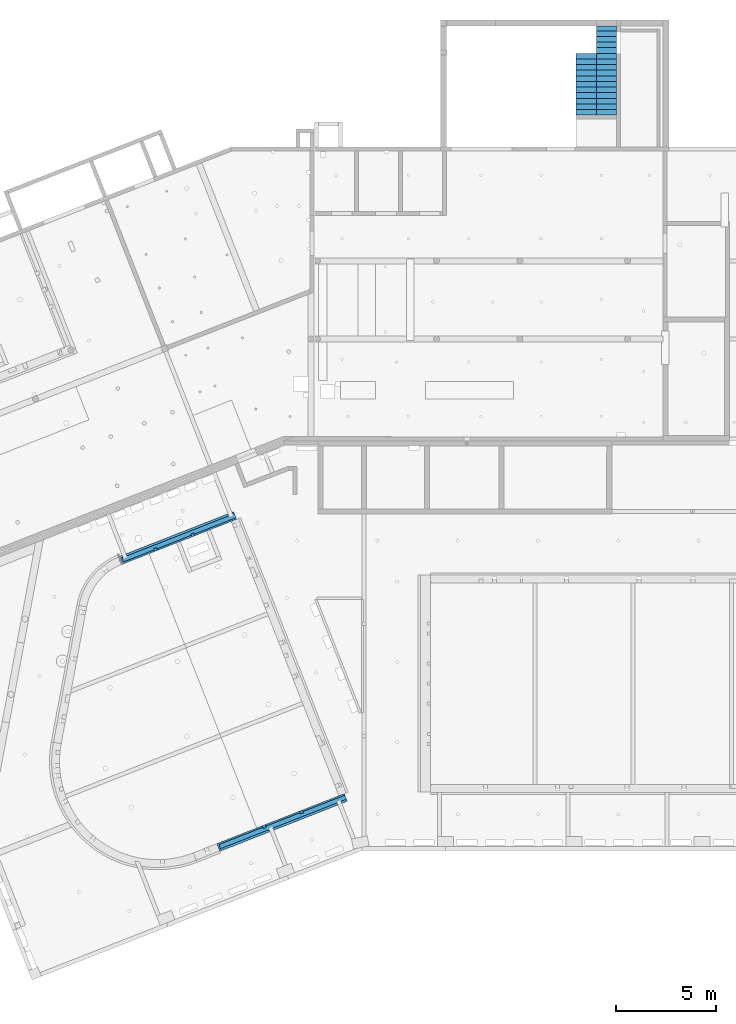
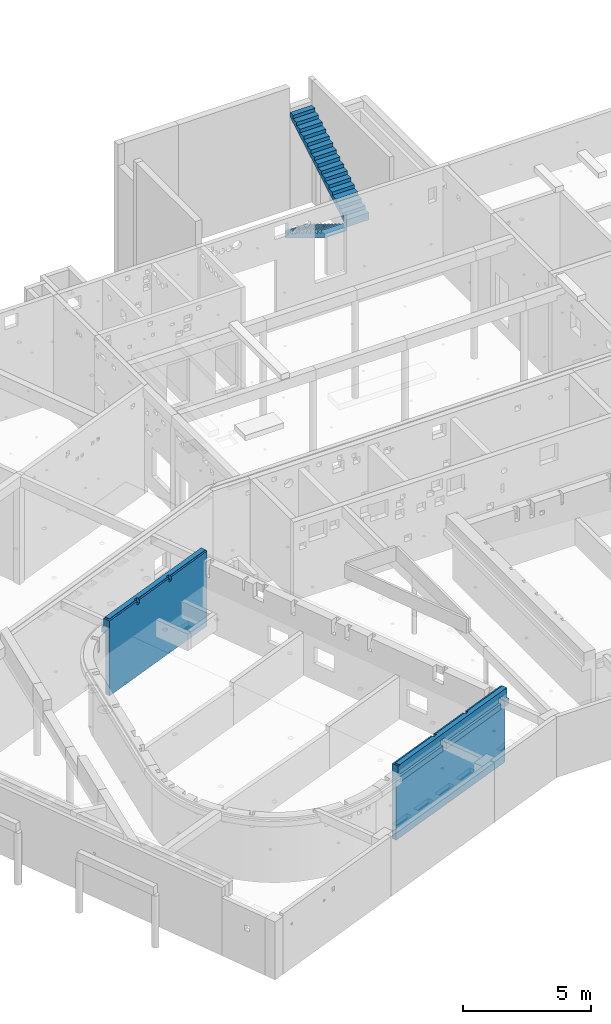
# One storey, part 28 of 28: 2 stairs, 2 walls, 11 openings.
"""IFC2X3 building model written with IfcOpenShell, lengths in metres."""

from ifc_helpers import new_model, entity, si_unit, converted_unit, direction, frame, origin, origin_with_axes, place, context, subcontext, project, spatial, polyline, outline, extrude, faceted_brep, material, element, save


model = new_model("IFC2X3")

# Units and contexts
model_context = context("Model", 3, precision=1e-05, world=origin(), true_north=direction((-0.407059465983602, -0.913401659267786)))
body_context = subcontext(model_context, "Body", "Model", "MODEL_VIEW")
ifc_project = project(units=[si_unit("LENGTHUNIT", "METRE"), si_unit("AREAUNIT", "SQUARE_METRE"), si_unit("VOLUMEUNIT", "CUBIC_METRE"), si_unit("MASSUNIT", "GRAM", prefix="KILO"), converted_unit("PLANEANGLEUNIT", "DEGREE", entity("IfcPlaneAngleMeasure", 0.0174532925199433), si_unit("PLANEANGLEUNIT", "RADIAN"), dimensions=[0, 0, 0, 0, 0, 0, 0])], contexts=[model_context])

# Site, buildings, storey
site_placement = place(None, origin())
site = spatial("IfcSite", under=ifc_project, at=site_placement, Name="Site", CompositionType="ELEMENT")
building_1_placement = place(site_placement, origin())
building_1 = spatial("IfcBuilding", under=site, at=building_1_placement, Name="Site", CompositionType="COMPLEX")
building_2_placement = place(building_1_placement, origin())
building_2 = spatial("IfcBuilding", under=building_1, at=building_2_placement, Name="Bâtiments", CompositionType="ELEMENT")
storey_placement = place(building_2_placement, frame((0.0, 0.0, -5.3)))
storey = spatial("IfcBuildingStorey", under=building_2, at=storey_placement, Name="SOUS-SOL", CompositionType="ELEMENT", Elevation=-5.3)

# Wall, openings
ifc_material_1 = material(Name="Béton")
wall_1_placement = place(storey_placement, frame((23.0210984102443, -25.6787157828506, 1.81)))
wall_1 = element("IfcWall", 1, at=wall_1_placement, inside=storey, material=ifc_material_1, context=body_context, shape_type="Brep", body=[
    faceted_brep([(2.7620972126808, 1.23978941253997, 3.35), (2.7620972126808, 1.23978941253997, 2.95), (2.5759156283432, 1.16673983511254, 2.95), (2.5759156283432, 1.16673983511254, 3.35), (6.15225922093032, 2.56994714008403, 3.35), (6.15225922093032, 2.56994714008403, 2.95), (5.96607763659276, 2.49689756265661, 2.95), (5.96607763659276, 2.49689756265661, 3.35), (6.2253091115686, 2.38376475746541, 2.95), (6.03912752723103, 2.31071518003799, 2.95), (2.83514532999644, 1.05361154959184, 2.95), (2.64896374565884, 0.980561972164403, 2.95), (5.99895017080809, 2.41311527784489, 3.35), (6.18513175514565, 2.48616485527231, 3.35), (6.03912752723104, 2.31071518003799, 3.14), (5.99895017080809, 2.41311527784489, 3.14), (2.83514532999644, 1.05361154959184, 3.14), (2.79496797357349, 1.15601164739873, 3.14), (2.79496797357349, 1.15601164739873, 3.35), (2.60878638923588, 1.0829620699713, 3.35), (2.64896374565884, 0.980561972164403, 3.14), (2.60878638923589, 1.0829620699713, 3.14), (6.18513175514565, 2.48616485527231, 3.14), (6.2253091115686, 2.38376475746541, 3.14), (0.149803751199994, 0.0, 3.14), (0.109626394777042, 0.102400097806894, 3.14), (6.41724912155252, 2.68465941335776, 2.88), (0.073084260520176, 0.195535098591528, 2.88), (0.0730497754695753, 0.195521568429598, 2.88), (0.073101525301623, 0.19549109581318, 2.88), (0.149803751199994, 0.0, 2.88), (6.49395134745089, 2.48916831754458, 2.88), (6.49395134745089, 2.48916831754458, 3.14), (6.45377399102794, 2.59156841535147, 3.14), (0.109626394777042, 0.102400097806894, 3.6), (6.45377399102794, 2.59156841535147, 3.6), (0.073101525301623, 0.19549109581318, 3.6), (0.0730497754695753, 0.195521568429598, 3.6), (0.073084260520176, 0.195535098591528, 3.6), (0.073084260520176, 0.195535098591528, 0.0), (5.178635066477e-05, 0.381673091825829, 0.0), (5.178635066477e-05, 0.381673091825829, 3.6), (6.41724912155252, 2.68465941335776, 0.0), (6.34419938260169, 2.87084140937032, 0.0), (6.34419938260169, 2.87084140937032, 3.6), (0.0, 0.381703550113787, 0.0), (0.0, 0.381703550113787, 3.6)], [[[0, 1, 2, 3]], [[4, 5, 6, 7]], [[5, 8, 9, 6]], [[1, 10, 11, 2]], [[7, 12, 13, 4]], [[7, 6, 9, 14, 15, 12]], [[14, 16, 17, 15]], [[18, 17, 16, 10, 1, 0]], [[3, 19, 18, 0]], [[3, 2, 11, 20, 21, 19]], [[13, 22, 23, 8, 5, 4]], [[20, 24, 25, 21]], [[26, 27, 28, 29, 30, 31]], [[9, 8, 23, 32, 31, 30, 24, 20, 11, 10, 16, 14]], [[22, 33, 32, 23]], [[13, 12, 15, 17, 18, 19, 21, 25, 34, 35, 33, 22]], [[25, 24, 30, 29, 36, 34]], [[29, 28, 37, 36]], [[37, 28, 27, 38]], [[27, 39, 40, 41, 38]], [[42, 39, 27, 26]], [[43, 42, 26, 31, 32, 33, 35, 44]], [[45, 43, 44, 46]], [[40, 45, 46, 41]], [[39, 42, 43, 45, 40]], [[46, 44, 35, 34, 36, 37, 38, 41]]], orient=[[False], [False], [False], [False], [False], [False], [False], [False], [False], [False], [False], [False], [False], [False], [False], [False], [False], [False], [False], [False], [False], [False], [False], [False], [False], [False]]),
])
opening_1_placement = place(wall_1_placement, frame((6.06066452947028, 2.81330551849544, 2.05), z_axis=(0.930909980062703, 0.365248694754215, 0.0), x_axis=(0.0, 0.0, 1.0)))
element("IfcOpeningElement", 2, at=opening_1_placement, cuts=wall_1, Name="Percement dans mur", ObjectType="Opening", context=body_context, shape_type="SweptSolid", body=[
    extrude(outline(polyline([(0.0, 0.0500000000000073), (1.19, 0.0500000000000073), (1.19, 0.0), (0.0, 0.0), (0.0, 0.0500000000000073)])), origin_with_axes(), (0.0, 0.0, 1.0), 0.0499999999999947),
])
opening_2_placement = place(wall_1_placement, frame((6.45377399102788, 2.59156841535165, 3.58), z_axis=(0.0, 0.0, 1.0), x_axis=(-0.365248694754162, 0.930909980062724, 0.0)))
element("IfcOpeningElement", 3, at=opening_2_placement, cuts=wall_1, Name="Percement dans mur", ObjectType="Opening", context=body_context, shape_type="SweptSolid", body=[
    extrude(outline(polyline([(0.219999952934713, 6.73503305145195), (0.219999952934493, -5.6843418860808e-16), (0.299999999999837, -7.38964445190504e-16), (0.300000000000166, 6.81499579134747), (0.100047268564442, 6.81499579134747), (0.100047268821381, 6.81503283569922), (0.10000000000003, 6.81499579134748), (1.68256519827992e-14, 6.81499579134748), (1.50066625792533e-14, 6.73503305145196), (0.219999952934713, 6.73503305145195)])), origin_with_axes(), (0.0, 0.0, 1.0), 0.02),
])
opening_3_placement = place(wall_1_placement, frame((4.26363681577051, 2.05453407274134, 3.39), z_axis=(0.365241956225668, -0.930912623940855, 0.0), x_axis=(0.0, 0.0, 1.0)))
element("IfcOpeningElement", 4, at=opening_3_placement, cuts=wall_1, Name="Percement dans mur", ObjectType="Opening", context=body_context, shape_type="SweptSolid", body=[
    extrude(outline(polyline([(0.0, 0.149999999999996), (0.21, 0.149999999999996), (0.21, 0.0), (0.0, 0.0), (0.0, 0.149999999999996)])), origin_with_axes(), (0.0, 0.0, 1.0), 0.150000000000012),
])
opening_4_placement = place(wall_1_placement, frame((2.40183694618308, 1.32406011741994, 3.39), z_axis=(0.365241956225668, -0.930912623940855, 0.0), x_axis=(0.0, 0.0, 1.0)))
element("IfcOpeningElement", 5, at=opening_4_placement, cuts=wall_1, Name="Percement dans mur", ObjectType="Opening", context=body_context, shape_type="SweptSolid", body=[
    extrude(outline(polyline([(0.0, 0.149999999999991), (0.21, 0.149999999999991), (0.21, 0.0), (0.0, 0.0), (0.0, 0.149999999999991)])), origin_with_axes(), (0.0, 0.0, 1.0), 0.150000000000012),
])
opening_5_placement = place(wall_1_placement, frame((6.15791523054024, 2.5829108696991, 2.88), z_axis=(0.365248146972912, -0.930910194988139, 0.0), x_axis=(0.0, 0.0, 1.0)))
element("IfcOpeningElement", 6, at=opening_5_placement, cuts=wall_1, Name="Percement dans mur", ObjectType="Opening", context=body_context, shape_type="SweptSolid", body=[
    extrude(outline(polyline([(0.0, 0.22), (0.47, 0.22), (0.47, 0.0), (0.0, 0.0), (0.0, 0.22)])), origin_with_axes(), (0.0, 0.0, 1.0), 0.110000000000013),
    extrude(outline(polyline([(0.0, 0.22), (0.47, 0.22), (0.47, 0.0), (0.0, 0.0), (0.0, 0.22)])), frame((0.0, -1.09423581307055e-15, 0.110000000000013), z_axis=(0.0, 0.0, 1.0), x_axis=(1.0, 0.0, 0.0)), (0.0, 0.0, 1.0), 0.100000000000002),
])
opening_6_placement = place(wall_1_placement, frame((2.76775066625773, 1.25275965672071, 2.88), z_axis=(0.365248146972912, -0.930910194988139, 0.0), x_axis=(0.0, 0.0, 1.0)))
element("IfcOpeningElement", 7, at=opening_6_placement, cuts=wall_1, Name="Percement dans mur", ObjectType="Opening", context=body_context, shape_type="SweptSolid", body=[
    extrude(outline(polyline([(0.0, 0.22), (0.47, 0.22), (0.47, 0.0), (0.0, 0.0), (0.0, 0.22)])), origin_with_axes(), (0.0, 0.0, 1.0), 0.110000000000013),
    extrude(outline(polyline([(0.0, 0.22), (0.47, 0.22), (0.47, 0.0), (0.0, 0.0), (0.0, 0.22)])), frame((0.0, -1.09423581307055e-15, 0.110000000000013), z_axis=(0.0, 0.0, 1.0), x_axis=(1.0, 0.0, 0.0)), (0.0, 0.0, 1.0), 0.100000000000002),
])

ifc_material_2 = material(Name="Béton")
wall_2_placement = place(storey_placement, frame((18.1620557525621, -11.3649304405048, 1.81)))
wall_2 = element("IfcWall", 8, at=wall_2_placement, inside=storey, material=ifc_material_2, context=body_context, shape_type="Brep", body=[
    faceted_brep([(0.149751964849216, 0.0, 3.6), (0.0401773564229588, 0.279272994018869, 3.6), (5.72834194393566, 2.51105817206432, 3.6), (5.83791655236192, 2.23178517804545, 3.6), (5.83791655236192, 2.23178517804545, 0.0), (0.149751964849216, 0.0, 0.0), (0.076702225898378, 0.186181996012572, 0.0), (5.76486681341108, 2.41796717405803, 0.0), (5.72834194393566, 2.51105817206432, 3.14), (5.68816458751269, 2.61345826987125, 3.14), (5.68816458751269, 2.61345826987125, 2.88), (5.76486681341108, 2.41796717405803, 2.88), (0.076702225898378, 0.186181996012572, 2.88), (0.0, 0.38167309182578, 2.88), (0.0, 0.38167309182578, 3.14), (0.0401773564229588, 0.279272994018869, 3.14), (5.48938482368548, 2.32063745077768, 3.35), (5.48938482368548, 2.32063745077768, 2.95), (5.67556640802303, 2.3936870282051, 2.95), (5.67556640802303, 2.3936870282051, 3.35), (5.41634021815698, 2.50680636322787, 2.95), (5.60252184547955, 2.57985583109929, 2.95), (0.214854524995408, 0.251144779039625, 3.35), (0.214854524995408, 0.251144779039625, 2.95), (0.401036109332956, 0.324194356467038, 2.95), (0.401036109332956, 0.324194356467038, 3.35), (0.141810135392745, 0.43731314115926, 2.95), (0.327991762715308, 0.510362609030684, 2.95), (5.45651757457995, 2.40440626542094, 3.35), (5.64269920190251, 2.47745573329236, 3.35), (5.60252184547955, 2.57985583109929, 3.14), (5.64269920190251, 2.47745573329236, 3.14), (0.181987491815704, 0.334913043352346, 3.35), (0.181987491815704, 0.334913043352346, 3.14), (0.141810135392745, 0.43731314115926, 3.14), (0.368169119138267, 0.40796251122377, 3.35), (0.327991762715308, 0.510362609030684, 3.14), (0.368169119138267, 0.40796251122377, 3.14), (5.45651757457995, 2.40440626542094, 3.14), (5.41634021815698, 2.50680636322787, 3.14)], [[[0, 1, 2, 3]], [[4, 5, 0, 3]], [[6, 5, 4, 7]], [[7, 4, 3, 2, 8, 9, 10, 11]], [[5, 6, 12, 13, 14, 15, 1, 0]], [[6, 7, 11, 12]], [[16, 17, 18, 19]], [[18, 17, 20, 21]], [[22, 23, 24, 25]], [[24, 23, 26, 27]], [[12, 11, 10, 13]], [[28, 16, 19, 29]], [[19, 18, 21, 30, 31, 29]], [[32, 33, 34, 26, 23, 22]], [[32, 22, 25, 35]], [[25, 24, 27, 36, 37, 35]], [[28, 38, 39, 20, 17, 16]], [[28, 29, 31, 8, 2, 1, 15, 33, 32, 35, 37, 38]], [[20, 39, 36, 27, 26, 34, 14, 13, 10, 9, 30, 21]], [[30, 9, 8, 31]], [[38, 37, 36, 39]], [[33, 15, 14, 34]]], orient=[[False], [False], [False], [False], [False], [False], [False], [False], [False], [False], [False], [False], [False], [False], [False], [False], [False], [False], [False], [False], [False], [False]]),
])
opening_7_placement = place(wall_2_placement, frame((0.14975185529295, -4.29850515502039e-08, 3.58), z_axis=(0.0, 0.0, 1.0), x_axis=(0.93091019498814, 0.365248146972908, 0.0)))
element("IfcOpeningElement", 9, at=opening_7_placement, cuts=wall_2, Name="Percement dans mur", ObjectType="Opening", context=body_context, shape_type="SweptSolid", body=[
    extrude(outline(polyline([(1.17687255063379e-07, -3.05102846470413e-16), (6.11032592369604, 0.0), (6.11032587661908, 0.0800035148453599), (0.0799999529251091, 0.07999996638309), (0.0800000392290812, 0.299999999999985), (1.16529008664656e-15, 0.299999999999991), (1.17687255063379e-07, -3.05102846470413e-16)])), origin_with_axes(), (0.0, 0.0, 1.0), 0.02),
])
opening_8_placement = place(wall_2_placement, frame((1.75588805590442, 0.630177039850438, 3.39), z_axis=(-0.365248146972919, 0.930910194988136, 0.0), x_axis=(0.0, 0.0, 1.0)))
element("IfcOpeningElement", 10, at=opening_8_placement, cuts=wall_2, Name="Percement dans mur", ObjectType="Opening", context=body_context, shape_type="SweptSolid", body=[
    extrude(outline(polyline([(0.0, 0.150000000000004), (0.21, 0.150000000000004), (0.21, 0.0), (0.0, 0.0), (0.0, 0.150000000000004)])), origin_with_axes(), (0.0, 0.0, 1.0), 0.150000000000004),
])
opening_9_placement = place(wall_2_placement, frame((3.61768306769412, 1.36066337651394, 3.39), z_axis=(-0.365248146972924, 0.930910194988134, 0.0), x_axis=(0.0, 0.0, 1.0)))
element("IfcOpeningElement", 11, at=opening_9_placement, cuts=wall_2, Name="Percement dans mur", ObjectType="Opening", context=body_context, shape_type="SweptSolid", body=[
    extrude(outline(polyline([(0.0, 0.150000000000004), (0.21, 0.150000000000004), (0.21, 0.0), (0.0, 0.0), (0.0, 0.150000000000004)])), origin_with_axes(), (0.0, 0.0, 1.0), 0.150000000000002),
])
opening_10_placement = place(wall_2_placement, frame((0.337300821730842, 0.514015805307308, 2.88), z_axis=(0.365248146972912, -0.930910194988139, 0.0), x_axis=(0.0, 0.0, 1.0)))
element("IfcOpeningElement", 12, at=opening_10_placement, cuts=wall_2, Name="Percement dans mur", ObjectType="Opening", context=body_context, shape_type="SweptSolid", body=[
    extrude(outline(polyline([(0.0, 0.220000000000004), (0.47, 0.220000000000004), (0.47, 0.0), (0.0, 0.0), (0.0, 0.220000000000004)])), origin_with_axes(), (0.0, 0.0, 1.0), 0.110000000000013),
    extrude(outline(polyline([(0.0, 0.220000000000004), (0.47, 0.220000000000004), (0.47, 0.0), (0.0, 0.0), (0.0, 0.220000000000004)])), frame((0.0, -2.48689957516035e-16, 0.110000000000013), z_axis=(0.0, 0.0, 1.0), x_axis=(1.0, 0.0, 0.0)), (0.0, 0.0, 1.0), 0.100000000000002),
])
opening_11_placement = place(wall_2_placement, frame((5.61183112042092, 2.58350847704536, 2.88), z_axis=(0.365248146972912, -0.930910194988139, 0.0), x_axis=(0.0, 0.0, 1.0)))
element("IfcOpeningElement", 13, at=opening_11_placement, cuts=wall_2, Name="Percement dans mur", ObjectType="Opening", context=body_context, shape_type="SweptSolid", body=[
    extrude(outline(polyline([(0.0, 0.220000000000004), (0.47, 0.220000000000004), (0.47, 0.0), (0.0, 0.0), (0.0, 0.220000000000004)])), origin_with_axes(), (0.0, 0.0, 1.0), 0.110000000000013),
    extrude(outline(polyline([(0.0, 0.22), (0.47, 0.22), (0.47, 0.0), (0.0, 0.0), (0.0, 0.22)])), frame((0.0, -2.48689957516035e-16, 0.110000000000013), z_axis=(0.0, 0.0, 1.0), x_axis=(1.0, 0.0, 0.0)), (0.0, 0.0, 1.0), 0.100000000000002),
])

# Stairs
ifc_material_3 = material(Name="Escalier droit")
stair_1_placement = place(storey_placement, frame((41.9296416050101, 11.0104510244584, 2.34500689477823)))
element("IfcStair", 14, at=stair_1_placement, inside=storey, material=ifc_material_3, ShapeType="NOTDEFINED", context=body_context, shape_type="Brep", body=[
    faceted_brep([(1.0, 0.0, 0.0), (1.0, 0.28, 0.1625), (-7.27595761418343e-15, 0.28, 0.1625), (-7.27595761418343e-15, 0.0, 0.0), (-7.27595761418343e-15, 0.0, 0.347493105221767), (-7.27595761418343e-15, 0.28, 0.347493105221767), (1.0, 0.28, 0.347493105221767), (1.0, 0.0, 0.347493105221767)], [[[0, 1, 2, 3]], [[4, 5, 6, 7]], [[7, 6, 1, 0]], [[6, 5, 2, 1]], [[5, 4, 3, 2]], [[4, 7, 0, 3]]], orient=[[False], [False], [False], [False], [False], [False]]),
    faceted_brep([(1.0, 0.28, 0.1625), (1.0, 0.56, 0.325), (-7.27595761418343e-15, 0.56, 0.325), (-7.27595761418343e-15, 0.28, 0.1625), (-7.27595761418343e-15, 0.28, 0.509993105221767), (-7.27595761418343e-15, 0.56, 0.509993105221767), (1.0, 0.56, 0.509993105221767), (1.0, 0.28, 0.509993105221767)], [[[0, 1, 2, 3]], [[4, 5, 6, 7]], [[7, 6, 1, 0]], [[6, 5, 2, 1]], [[5, 4, 3, 2]], [[4, 7, 0, 3]]], orient=[[False], [False], [False], [False], [False], [False]]),
    faceted_brep([(1.0, 0.56, 0.325), (1.0, 0.84, 0.4875), (-7.27595761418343e-15, 0.84, 0.4875), (-7.27595761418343e-15, 0.56, 0.325), (-7.27595761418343e-15, 0.56, 0.672493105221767), (-7.27595761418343e-15, 0.84, 0.672493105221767), (1.0, 0.84, 0.672493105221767), (1.0, 0.56, 0.672493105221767)], [[[0, 1, 2, 3]], [[4, 5, 6, 7]], [[7, 6, 1, 0]], [[6, 5, 2, 1]], [[5, 4, 3, 2]], [[4, 7, 0, 3]]], orient=[[False], [False], [False], [False], [False], [False]]),
    faceted_brep([(1.0, 0.84, 0.4875), (1.0, 1.12, 0.65), (-7.27595761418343e-15, 1.12, 0.65), (-7.27595761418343e-15, 0.84, 0.4875), (-7.27595761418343e-15, 0.84, 0.834993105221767), (-7.27595761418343e-15, 1.12, 0.834993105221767), (1.0, 1.12, 0.834993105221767), (1.0, 0.84, 0.834993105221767)], [[[0, 1, 2, 3]], [[4, 5, 6, 7]], [[7, 6, 1, 0]], [[6, 5, 2, 1]], [[5, 4, 3, 2]], [[4, 7, 0, 3]]], orient=[[False], [False], [False], [False], [False], [False]]),
    faceted_brep([(1.0, 1.12, 0.65), (1.0, 1.4, 0.8125), (-7.27595761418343e-15, 1.4, 0.8125), (-7.27595761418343e-15, 1.12, 0.65), (-7.27595761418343e-15, 1.12, 0.997493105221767), (-7.27595761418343e-15, 1.4, 0.997493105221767), (1.0, 1.4, 0.997493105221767), (1.0, 1.12, 0.997493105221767)], [[[0, 1, 2, 3]], [[4, 5, 6, 7]], [[7, 6, 1, 0]], [[6, 5, 2, 1]], [[5, 4, 3, 2]], [[4, 7, 0, 3]]], orient=[[False], [False], [False], [False], [False], [False]]),
    faceted_brep([(1.0, 1.4, 0.8125), (1.0, 1.68, 0.975), (-7.27595761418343e-15, 1.68, 0.975), (-7.27595761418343e-15, 1.4, 0.8125), (-7.27595761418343e-15, 1.4, 1.15999310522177), (-7.27595761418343e-15, 1.68, 1.15999310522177), (1.0, 1.68, 1.15999310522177), (1.0, 1.4, 1.15999310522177)], [[[0, 1, 2, 3]], [[4, 5, 6, 7]], [[7, 6, 1, 0]], [[6, 5, 2, 1]], [[5, 4, 3, 2]], [[4, 7, 0, 3]]], orient=[[False], [False], [False], [False], [False], [False]]),
    faceted_brep([(1.0, 1.68, 0.975), (1.0, 1.96, 1.1375), (-7.27595761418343e-15, 1.96, 1.1375), (-7.27595761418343e-15, 1.68, 0.975), (-7.27595761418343e-15, 1.68, 1.32249310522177), (-7.27595761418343e-15, 1.96, 1.32249310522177), (1.0, 1.96, 1.32249310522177), (1.0, 1.68, 1.32249310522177)], [[[0, 1, 2, 3]], [[4, 5, 6, 7]], [[7, 6, 1, 0]], [[6, 5, 2, 1]], [[5, 4, 3, 2]], [[4, 7, 0, 3]]], orient=[[False], [False], [False], [False], [False], [False]]),
    faceted_brep([(1.0, 1.96, 1.1375), (1.0, 2.24, 1.3), (-7.27595761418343e-15, 2.24, 1.3), (-7.27595761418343e-15, 1.96, 1.1375), (-7.27595761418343e-15, 1.96, 1.48499310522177), (-7.27595761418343e-15, 2.24, 1.48499310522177), (1.0, 2.24, 1.48499310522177), (1.0, 1.96, 1.48499310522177)], [[[0, 1, 2, 3]], [[4, 5, 6, 7]], [[7, 6, 1, 0]], [[6, 5, 2, 1]], [[5, 4, 3, 2]], [[4, 7, 0, 3]]], orient=[[False], [False], [False], [False], [False], [False]]),
    faceted_brep([(1.0, 2.24, 1.3), (1.0, 2.52, 1.4625), (-7.27595761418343e-15, 2.52, 1.4625), (-7.27595761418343e-15, 2.24, 1.3), (-7.27595761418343e-15, 2.24, 1.64749310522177), (-7.27595761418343e-15, 2.52, 1.64749310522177), (1.0, 2.52, 1.64749310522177), (1.0, 2.24, 1.64749310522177)], [[[0, 1, 2, 3]], [[4, 5, 6, 7]], [[7, 6, 1, 0]], [[6, 5, 2, 1]], [[5, 4, 3, 2]], [[4, 7, 0, 3]]], orient=[[False], [False], [False], [False], [False], [False]]),
    faceted_brep([(1.0, 2.52, 1.4625), (1.0, 2.8, 1.625), (-7.27595761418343e-15, 2.8, 1.625), (-7.27595761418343e-15, 2.52, 1.4625), (-7.27595761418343e-15, 2.52, 1.80999310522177), (-7.27595761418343e-15, 2.8, 1.80999310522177), (1.0, 2.8, 1.80999310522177), (1.0, 2.52, 1.80999310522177)], [[[0, 1, 2, 3]], [[4, 5, 6, 7]], [[7, 6, 1, 0]], [[6, 5, 2, 1]], [[5, 4, 3, 2]], [[4, 7, 0, 3]]], orient=[[False], [False], [False], [False], [False], [False]]),
    faceted_brep([(1.0, 2.8, 1.625), (1.0, 3.08, 1.7875), (-7.27595761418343e-15, 3.08, 1.7875), (-7.27595761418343e-15, 2.8, 1.625), (-7.27595761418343e-15, 2.8, 1.97249310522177), (-7.27595761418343e-15, 3.08, 1.97249310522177), (1.0, 3.08, 1.97249310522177), (1.0, 2.8, 1.97249310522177)], [[[0, 1, 2, 3]], [[4, 5, 6, 7]], [[7, 6, 1, 0]], [[6, 5, 2, 1]], [[5, 4, 3, 2]], [[4, 7, 0, 3]]], orient=[[False], [False], [False], [False], [False], [False]]),
    faceted_brep([(1.0, 3.08, 1.7875), (1.0, 3.36, 1.95), (-7.27595761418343e-15, 3.36, 1.95), (-7.27595761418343e-15, 3.08, 1.7875), (-7.27595761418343e-15, 3.08, 2.13499310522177), (-7.27595761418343e-15, 3.36, 2.13499310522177), (1.0, 3.36, 2.13499310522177), (1.0, 3.08, 2.13499310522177)], [[[0, 1, 2, 3]], [[4, 5, 6, 7]], [[7, 6, 1, 0]], [[6, 5, 2, 1]], [[5, 4, 3, 2]], [[4, 7, 0, 3]]], orient=[[False], [False], [False], [False], [False], [False]]),
    faceted_brep([(1.0, 3.36, 1.95), (1.0, 3.64, 2.1125), (-7.27595761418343e-15, 3.64, 2.1125), (-7.27595761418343e-15, 3.36, 1.95), (-7.27595761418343e-15, 3.36, 2.29749310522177), (-7.27595761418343e-15, 3.64, 2.29749310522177), (1.0, 3.64, 2.29749310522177), (1.0, 3.36, 2.29749310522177)], [[[0, 1, 2, 3]], [[4, 5, 6, 7]], [[7, 6, 1, 0]], [[6, 5, 2, 1]], [[5, 4, 3, 2]], [[4, 7, 0, 3]]], orient=[[False], [False], [False], [False], [False], [False]]),
    faceted_brep([(1.0, 3.64, 2.1125), (1.0, 3.92, 2.275), (-7.27595761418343e-15, 3.92, 2.275), (-7.27595761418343e-15, 3.64, 2.1125), (-7.27595761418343e-15, 3.64, 2.45999310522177), (-7.27595761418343e-15, 3.92, 2.45999310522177), (1.0, 3.92, 2.45999310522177), (1.0, 3.64, 2.45999310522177)], [[[0, 1, 2, 3]], [[4, 5, 6, 7]], [[7, 6, 1, 0]], [[6, 5, 2, 1]], [[5, 4, 3, 2]], [[4, 7, 0, 3]]], orient=[[False], [False], [False], [False], [False], [False]]),
    faceted_brep([(1.0, 3.92, 2.275), (1.0, 4.00031187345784, 2.3216095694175), (-7.27595761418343e-15, 4.00031187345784, 2.3216095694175), (-7.27595761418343e-15, 3.92, 2.275), (1.0, 4.2, 2.43757865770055), (-7.27595761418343e-15, 4.2, 2.43757865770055), (-7.27595761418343e-15, 3.92, 2.62249310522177), (-7.27595761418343e-15, 4.2, 2.62249310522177), (1.0, 4.2, 2.62249310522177), (1.0, 3.92, 2.62249310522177)], [[[0, 1, 2, 3]], [[1, 4, 5, 2]], [[6, 7, 8, 9]], [[9, 8, 4, 1, 0]], [[8, 7, 5, 4]], [[7, 6, 3, 2, 5]], [[6, 9, 0, 3]]], orient=[[False], [False], [False], [False], [False], [False], [False]]),
    faceted_brep([(1.0, 4.2, 2.43757865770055), (1.0, 4.28508151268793, 2.4869898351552), (-7.27595761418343e-15, 4.28508151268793, 2.4869898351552), (-7.27595761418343e-15, 4.2, 2.43757865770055), (1.0, 4.43983310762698, 2.59184247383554), (-7.27595761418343e-15, 4.43983310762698, 2.59184247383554), (-7.27595761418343e-15, 4.2, 2.78499310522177), (-7.27595761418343e-15, 4.43983310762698, 2.78499310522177), (1.0, 4.43983310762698, 2.78499310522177), (1.0, 4.2, 2.78499310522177)], [[[0, 1, 2, 3]], [[1, 4, 5, 2]], [[6, 7, 8, 9]], [[9, 8, 4, 1, 0]], [[8, 7, 5, 4]], [[7, 6, 3, 2, 5]], [[6, 9, 0, 3]]], orient=[[False], [False], [False], [False], [False], [False], [False]]),
])
ifc_material_4 = material(Name="Escalier droit")
stair_2_placement = place(storey_placement, frame((40.9296416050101, 11.0104510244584, 0.309090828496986)))
element("IfcStair", 15, at=stair_2_placement, inside=storey, material=ifc_material_4, ShapeType="NOTDEFINED", context=body_context, shape_type="Brep", body=[
    faceted_brep([(0.0, 0.28, 1.69166666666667), (0.0, 0.0, 1.86083333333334), (1.0, 0.0, 1.86083333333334), (1.0, 0.28, 1.69166666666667), (1.0, 0.28, 2.05174250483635), (1.0, 0.0, 2.05174250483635), (0.0, 0.0, 2.05174250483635), (0.0, 0.28, 2.05174250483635)], [[[0, 1, 2, 3]], [[4, 5, 6, 7]], [[3, 4, 7, 0]], [[0, 7, 6, 1]], [[1, 6, 5, 2]], [[2, 5, 4, 3]]], orient=[[False], [False], [False], [False], [False], [False]]),
    faceted_brep([(0.0, 0.56, 1.5225), (0.0, 0.28, 1.69166666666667), (1.0, 0.28, 1.69166666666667), (1.0, 0.56, 1.5225), (1.0, 0.56, 1.88257583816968), (1.0, 0.28, 1.88257583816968), (0.0, 0.28, 1.88257583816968), (0.0, 0.56, 1.88257583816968)], [[[0, 1, 2, 3]], [[4, 5, 6, 7]], [[3, 4, 7, 0]], [[0, 7, 6, 1]], [[1, 6, 5, 2]], [[2, 5, 4, 3]]], orient=[[False], [False], [False], [False], [False], [False]]),
    faceted_brep([(0.0, 0.84, 1.35333333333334), (0.0, 0.56, 1.5225), (1.0, 0.56, 1.5225), (1.0, 0.84, 1.35333333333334), (1.0, 0.84, 1.71340917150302), (1.0, 0.56, 1.71340917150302), (0.0, 0.56, 1.71340917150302), (0.0, 0.84, 1.71340917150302)], [[[0, 1, 2, 3]], [[4, 5, 6, 7]], [[3, 4, 7, 0]], [[0, 7, 6, 1]], [[1, 6, 5, 2]], [[2, 5, 4, 3]]], orient=[[False], [False], [False], [False], [False], [False]]),
    faceted_brep([(0.0, 1.12, 1.18416666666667), (0.0, 0.84, 1.35333333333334), (1.0, 0.84, 1.35333333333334), (1.0, 1.12, 1.18416666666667), (1.0, 1.12, 1.54424250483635), (1.0, 0.84, 1.54424250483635), (0.0, 0.84, 1.54424250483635), (0.0, 1.12, 1.54424250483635)], [[[0, 1, 2, 3]], [[4, 5, 6, 7]], [[3, 4, 7, 0]], [[0, 7, 6, 1]], [[1, 6, 5, 2]], [[2, 5, 4, 3]]], orient=[[False], [False], [False], [False], [False], [False]]),
    faceted_brep([(0.0, 1.4, 1.015), (0.0, 1.12, 1.18416666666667), (1.0, 1.12, 1.18416666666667), (1.0, 1.4, 1.015), (1.0, 1.4, 1.37507583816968), (1.0, 1.12, 1.37507583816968), (0.0, 1.12, 1.37507583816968), (0.0, 1.4, 1.37507583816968)], [[[0, 1, 2, 3]], [[4, 5, 6, 7]], [[3, 4, 7, 0]], [[0, 7, 6, 1]], [[1, 6, 5, 2]], [[2, 5, 4, 3]]], orient=[[False], [False], [False], [False], [False], [False]]),
    faceted_brep([(0.0, 1.68, 0.845833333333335), (0.0, 1.4, 1.015), (1.0, 1.4, 1.015), (1.0, 1.68, 0.845833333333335), (1.0, 1.68, 1.20590917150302), (1.0, 1.4, 1.20590917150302), (0.0, 1.4, 1.20590917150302), (0.0, 1.68, 1.20590917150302)], [[[0, 1, 2, 3]], [[4, 5, 6, 7]], [[3, 4, 7, 0]], [[0, 7, 6, 1]], [[1, 6, 5, 2]], [[2, 5, 4, 3]]], orient=[[False], [False], [False], [False], [False], [False]]),
    faceted_brep([(0.0, 1.96, 0.676666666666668), (0.0, 1.68, 0.845833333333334), (1.0, 1.68, 0.845833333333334), (1.0, 1.96, 0.676666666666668), (1.0, 1.96, 1.03674250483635), (1.0, 1.68, 1.03674250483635), (0.0, 1.68, 1.03674250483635), (0.0, 1.96, 1.03674250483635)], [[[0, 1, 2, 3]], [[4, 5, 6, 7]], [[3, 4, 7, 0]], [[0, 7, 6, 1]], [[1, 6, 5, 2]], [[2, 5, 4, 3]]], orient=[[False], [False], [False], [False], [False], [False]]),
    faceted_brep([(0.0, 2.24, 0.507500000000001), (0.0, 1.96, 0.676666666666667), (1.0, 1.96, 0.676666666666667), (1.0, 2.24, 0.507500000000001), (1.0, 2.24, 0.867575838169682), (1.0, 1.96, 0.867575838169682), (0.0, 1.96, 0.867575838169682), (0.0, 2.24, 0.867575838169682)], [[[0, 1, 2, 3]], [[4, 5, 6, 7]], [[3, 4, 7, 0]], [[0, 7, 6, 1]], [[1, 6, 5, 2]], [[2, 5, 4, 3]]], orient=[[False], [False], [False], [False], [False], [False]]),
    faceted_brep([(0.0, 2.52, 0.338333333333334), (0.0, 2.24, 0.5075), (1.0, 2.24, 0.5075), (1.0, 2.52, 0.338333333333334), (1.0, 2.52, 0.698409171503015), (1.0, 2.24, 0.698409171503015), (0.0, 2.24, 0.698409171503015), (0.0, 2.52, 0.698409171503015)], [[[0, 1, 2, 3]], [[4, 5, 6, 7]], [[3, 4, 7, 0]], [[0, 7, 6, 1]], [[1, 6, 5, 2]], [[2, 5, 4, 3]]], orient=[[False], [False], [False], [False], [False], [False]]),
    faceted_brep([(0.0, 2.8, 0.169166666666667), (0.0, 2.52, 0.338333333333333), (1.0, 2.52, 0.338333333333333), (1.0, 2.8, 0.169166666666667), (1.0, 2.8, 0.529242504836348), (1.0, 2.52, 0.529242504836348), (0.0, 2.52, 0.529242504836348), (0.0, 2.8, 0.529242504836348)], [[[0, 1, 2, 3]], [[4, 5, 6, 7]], [[3, 4, 7, 0]], [[0, 7, 6, 1]], [[1, 6, 5, 2]], [[2, 5, 4, 3]]], orient=[[False], [False], [False], [False], [False], [False]]),
    faceted_brep([(0.0, 3.08, 0.0), (0.0, 2.8, 0.169166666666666), (1.0, 2.8, 0.169166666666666), (1.0, 3.08, 0.0), (1.0, 3.08, 0.360075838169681), (1.0, 2.8, 0.360075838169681), (0.0, 2.8, 0.360075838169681), (0.0, 3.08, 0.360075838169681)], [[[0, 1, 2, 3]], [[4, 5, 6, 7]], [[3, 4, 7, 0]], [[0, 7, 6, 1]], [[1, 6, 5, 2]], [[2, 5, 4, 3]]], orient=[[False], [False], [False], [False], [False], [False]]),
])

save(model, "model.ifc")
